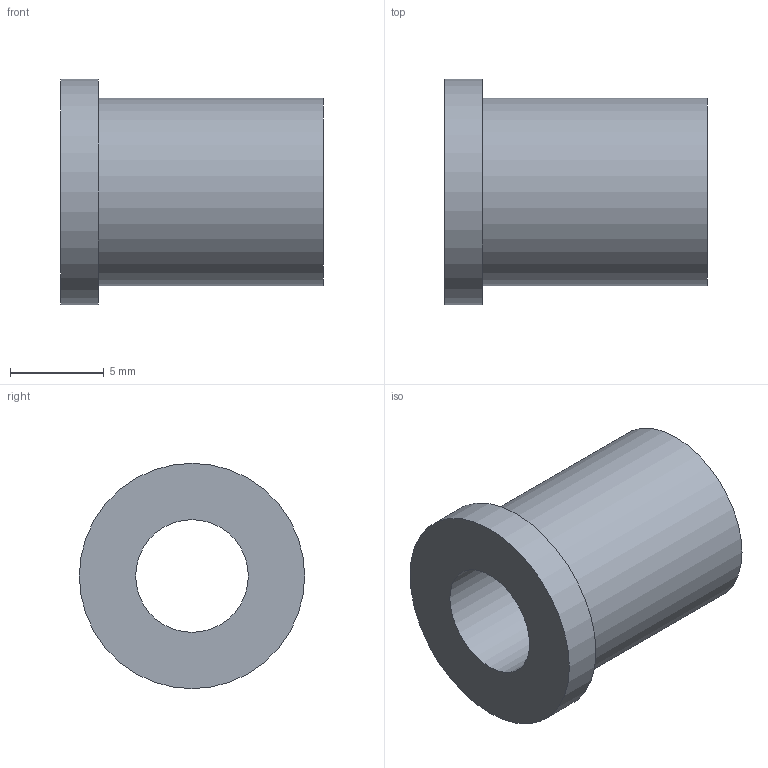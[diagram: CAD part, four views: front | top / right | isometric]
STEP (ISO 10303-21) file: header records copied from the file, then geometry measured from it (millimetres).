
FILE_DESCRIPTION(/* description */ ('Slide Bearing axis'),/* implementation_level */ '2;1');
FILE_NAME(/* name */ 'Z:\Werkstatt Server\Projekte\Atlas\Entwicklung u. Konstruktion\Konstruktion\CAD Daten\ITkPixToolV2.0\Baremodule Jig\ITPTv2.01.00.24.stp',/* time_stamp */ '2021-08-06T14:57:22+02:00',/* author */ ('Tim Kanngießer'),/* organization */ (''),/* preprocessor_version */ 'ST-DEVELOPER v18.1',/* originating_system */ 'Autodesk Inventor 2022',/* authorisation */ '');
FILE_SCHEMA (('AUTOMOTIVE_DESIGN { 1 0 10303 214 3 1 1 }'));
Length unit declared in the file: millimetre
Products named in the file (1): ITPTv2.0.00.24
Bounding box: 14 x 12 x 12 mm (x, y, z)
Volume: 772.8 mm3; surface area: 885.9 mm2
Topology: 1 solids, 1 shells, 6 faces, 9 edges, 6 vertices
Faces by surface type: cylinder 3, plane 3
Full cylindrical faces by diameter (mm): 6 x1, 10 x1, 12 x1
Entity records: 184 total; most frequent: DIRECTION 29, CARTESIAN_POINT 22, ORIENTED_EDGE 18, AXIS2_PLACEMENT_3D 13, EDGE_LOOP 9, EDGE_CURVE 9, FACE_OUTER_BOUND 6, CIRCLE 6
